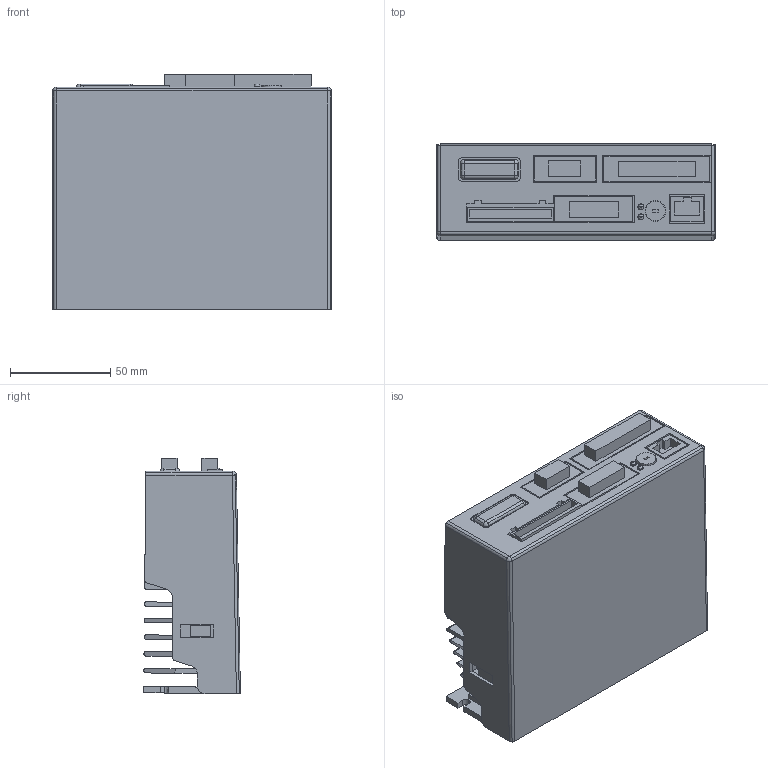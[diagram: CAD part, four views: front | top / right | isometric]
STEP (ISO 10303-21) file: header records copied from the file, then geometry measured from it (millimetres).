
FILE_DESCRIPTION((''),'2;1');
FILE_NAME('CU_SMD-7620_SMD-7621','2013-07-24T',('jbuhisan'),(''),'PRO/ENGINEER BY PARAMETRIC TECHNOLOGY CORPORATION, 2011490','PRO/ENGINEER BY PARAMETRIC TECHNOLOGY CORPORATION, 2011490','');
FILE_SCHEMA(('CONFIG_CONTROL_DESIGN'));
Length unit declared in the file: inch
Products named in the file (1): CU_SMD-7620_SMD-7621
Bounding box: 139 x 48.27 x 117.25 mm (x, y, z)
Surface area: 100137.9 mm2 (no closed solid volume)
Topology: 0 solids, 4 shells, 244 faces, 703 edges, 464 vertices
Faces by surface type: plane 156, cylinder 77, sphere 6, bspline 4, extrusion 1
Entity records: 8071 total; most frequent: CARTESIAN_POINT 1681, ORIENTED_EDGE 1314, DIRECTION 1256, EDGE_CURVE 697, VECTOR 522, LINE 521, VERTEX_POINT 464, AXIS2_PLACEMENT_3D 367
